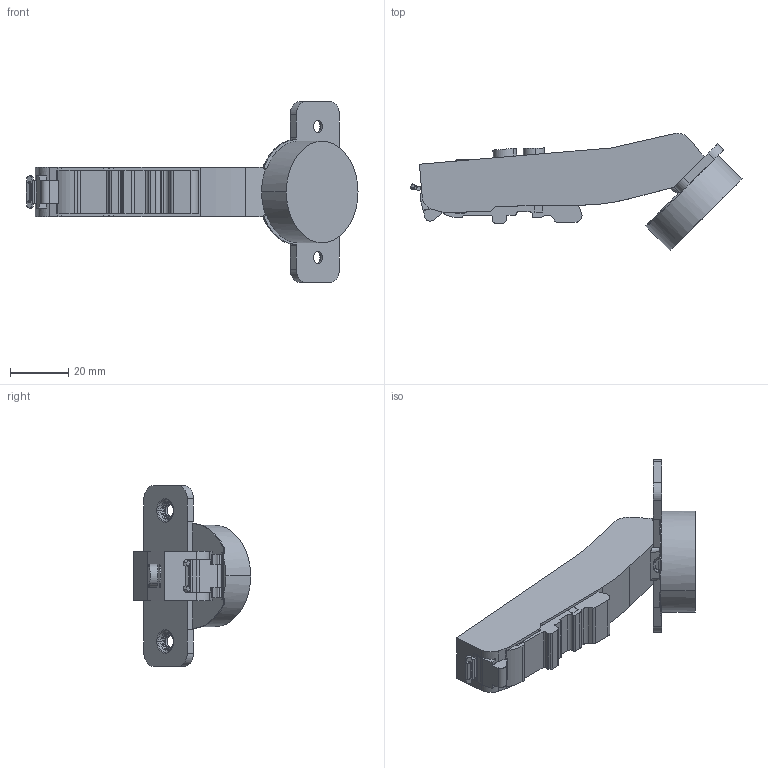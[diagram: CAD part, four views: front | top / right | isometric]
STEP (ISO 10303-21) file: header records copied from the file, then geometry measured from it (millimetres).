
FILE_DESCRIPTION (( 'STEP AP203' ), '1' );
FILE_NAME ('C81E875FAB DTC 3D CLOSE.STEP', '2024-07-26T00:53:19', ( '微软用户' ), ( '微软中国' ), 'SwSTEP 2.0', 'SolidWorks 2021', '' );
FILE_SCHEMA (( 'CONFIG_CONTROL_DESIGN' ));
Length unit declared in the file: millimetre
Products named in the file (1): C81E875FAB DTC 3D CLOSE
Bounding box: 113.99 x 40.25 x 62 mm (x, y, z)
Volume: 46011.3 mm3; surface area: 12651.2 mm2
Topology: 1 solids, 1 shells, 262 faces, 746 edges, 490 vertices
Faces by surface type: cylinder 115, plane 105, torus 26, bspline 12, cone 4
Entity records: 8915 total; most frequent: CARTESIAN_POINT 1991, ORIENTED_EDGE 1492, DIRECTION 1425, EDGE_CURVE 746, AXIS2_PLACEMENT_3D 515, VERTEX_POINT 490, VECTOR 395, LINE 395
